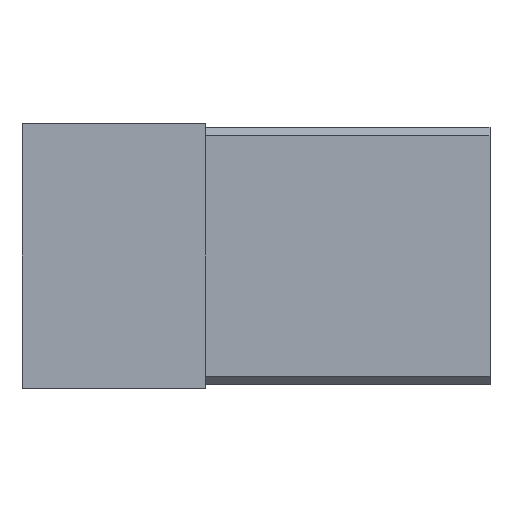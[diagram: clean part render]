
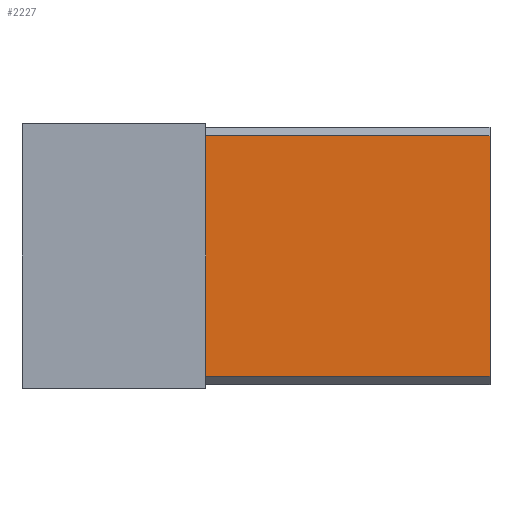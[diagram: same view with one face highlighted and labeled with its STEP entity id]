
A CAD part, front view. The second image highlights one B-rep face of the part: STEP entity #2227.
In plain terms, the highlighted planar face has unit normal (0, -1, 0).
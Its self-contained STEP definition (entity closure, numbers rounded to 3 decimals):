
#129=PLANE('',#2429);
#242=FACE_OUTER_BOUND('',#366,.T.);
#366=EDGE_LOOP('',(#2012,#2013,#2014,#2015));
#550=LINE('',#3415,#834);
#551=LINE('',#3418,#835);
#566=LINE('',#3447,#850);
#630=LINE('',#3575,#914);
#834=VECTOR('',#2774,10.);
#835=VECTOR('',#2777,10.);
#850=VECTOR('',#2794,10.);
#914=VECTOR('',#2944,10.);
#1116=VERTEX_POINT('',#3411);
#1117=VERTEX_POINT('',#3413);
#1118=VERTEX_POINT('',#3417);
#1131=VERTEX_POINT('',#3446);
#1368=EDGE_CURVE('',#1117,#1116,#550,.T.);
#1369=EDGE_CURVE('',#1116,#1118,#551,.T.);
#1384=EDGE_CURVE('',#1118,#1131,#566,.T.);
#1448=EDGE_CURVE('',#1117,#1131,#630,.T.);
#2012=ORIENTED_EDGE('',*,*,#1368,.F.);
#2013=ORIENTED_EDGE('',*,*,#1448,.T.);
#2014=ORIENTED_EDGE('',*,*,#1384,.F.);
#2015=ORIENTED_EDGE('',*,*,#1369,.F.);
#2227=ADVANCED_FACE('',(#242),#129,.F.);
#2429=AXIS2_PLACEMENT_3D('',#3574,#2942,#2943);
#2774=DIRECTION('',(1.,0.,0.));
#2777=DIRECTION('',(0.,0.,-1.));
#2794=DIRECTION('',(-1.,0.,0.));
#2942=DIRECTION('center_axis',(0.,1.,0.));
#2943=DIRECTION('ref_axis',(0.,0.,-1.));
#2944=DIRECTION('',(0.,0.,-1.));
#3411=CARTESIAN_POINT('',(14.,-1.275,3.596));
#3413=CARTESIAN_POINT('',(5.5,-1.275,3.596));
#3415=CARTESIAN_POINT('',(14.,-1.275,3.596));
#3417=CARTESIAN_POINT('',(14.,-1.275,-3.596));
#3418=CARTESIAN_POINT('',(14.,-1.275,3.95));
#3446=CARTESIAN_POINT('',(5.5,-1.275,-3.596));
#3447=CARTESIAN_POINT('',(14.,-1.275,-3.596));
#3574=CARTESIAN_POINT('Origin',(14.,-1.275,3.95));
#3575=CARTESIAN_POINT('',(5.5,-1.275,-3.95));
